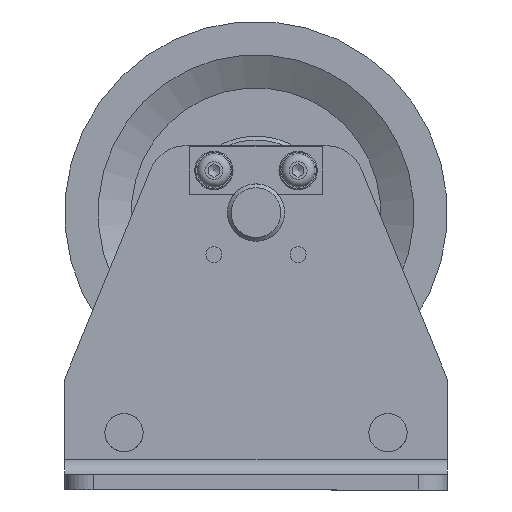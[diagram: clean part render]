
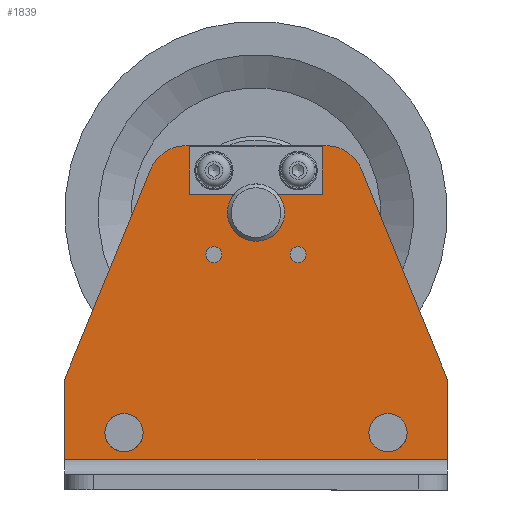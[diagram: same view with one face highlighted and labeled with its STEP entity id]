
A CAD part, front view. The second image highlights one B-rep face of the part: STEP entity #1839.
In plain terms, the highlighted planar face has unit normal (0, -1, 0) as drawn and (0, 0, 1) by its records, which use the part's own axes.
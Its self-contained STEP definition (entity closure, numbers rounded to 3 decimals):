
#159=FACE_BOUND('',#378,.T.);
#160=FACE_BOUND('',#379,.T.);
#161=FACE_BOUND('',#380,.T.);
#162=FACE_BOUND('',#381,.T.);
#163=FACE_BOUND('',#382,.T.);
#164=FACE_BOUND('',#383,.T.);
#165=FACE_BOUND('',#384,.T.);
#195=PLANE('',#2180);
#263=FACE_OUTER_BOUND('',#377,.T.);
#377=EDGE_LOOP('',(#1408,#1409,#1410,#1411,#1412,#1413,#1414,#1415));
#378=EDGE_LOOP('',(#1416,#1417));
#379=EDGE_LOOP('',(#1418,#1419));
#380=EDGE_LOOP('',(#1420,#1421));
#381=EDGE_LOOP('',(#1422,#1423));
#382=EDGE_LOOP('',(#1424));
#383=EDGE_LOOP('',(#1425));
#384=EDGE_LOOP('',(#1426));
#498=LINE('',#3132,#613);
#501=LINE('',#3138,#616);
#509=LINE('',#3172,#624);
#513=LINE('',#3181,#628);
#516=LINE('',#3188,#631);
#517=LINE('',#3190,#632);
#613=VECTOR('',#2495,10.);
#616=VECTOR('',#2500,10.);
#624=VECTOR('',#2534,10.);
#628=VECTOR('',#2544,10.);
#631=VECTOR('',#2553,10.);
#632=VECTOR('',#2556,10.);
#705=CIRCLE('',#2117,4.188);
#706=CIRCLE('',#2118,4.188);
#708=CIRCLE('',#2121,4.188);
#709=CIRCLE('',#2122,4.188);
#711=CIRCLE('',#2125,4.188);
#712=CIRCLE('',#2126,4.188);
#714=CIRCLE('',#2129,4.188);
#715=CIRCLE('',#2130,4.188);
#736=CIRCLE('',#2167,10.);
#737=CIRCLE('',#2169,10.);
#738=CIRCLE('',#2171,15.);
#739=CIRCLE('',#2174,20.);
#740=CIRCLE('',#2177,20.);
#838=VERTEX_POINT('',#3033);
#839=VERTEX_POINT('',#3034);
#841=VERTEX_POINT('',#3041);
#842=VERTEX_POINT('',#3042);
#844=VERTEX_POINT('',#3049);
#845=VERTEX_POINT('',#3050);
#847=VERTEX_POINT('',#3057);
#848=VERTEX_POINT('',#3058);
#870=VERTEX_POINT('',#3123);
#871=VERTEX_POINT('',#3127);
#873=VERTEX_POINT('',#3136);
#882=VERTEX_POINT('',#3158);
#883=VERTEX_POINT('',#3162);
#884=VERTEX_POINT('',#3166);
#885=VERTEX_POINT('',#3170);
#886=VERTEX_POINT('',#3171);
#887=VERTEX_POINT('',#3176);
#888=VERTEX_POINT('',#3180);
#889=VERTEX_POINT('',#3184);
#1014=EDGE_CURVE('',#838,#839,#705,.T.);
#1015=EDGE_CURVE('',#839,#838,#706,.T.);
#1018=EDGE_CURVE('',#841,#842,#708,.T.);
#1019=EDGE_CURVE('',#842,#841,#709,.T.);
#1022=EDGE_CURVE('',#844,#845,#711,.T.);
#1023=EDGE_CURVE('',#845,#844,#712,.T.);
#1026=EDGE_CURVE('',#847,#848,#714,.T.);
#1027=EDGE_CURVE('',#848,#847,#715,.T.);
#1063=EDGE_CURVE('',#870,#871,#498,.T.);
#1066=EDGE_CURVE('',#873,#871,#501,.T.);
#1077=EDGE_CURVE('',#882,#882,#736,.T.);
#1079=EDGE_CURVE('',#883,#883,#737,.T.);
#1081=EDGE_CURVE('',#884,#884,#738,.T.);
#1082=EDGE_CURVE('',#885,#886,#509,.T.);
#1085=EDGE_CURVE('',#886,#887,#739,.T.);
#1087=EDGE_CURVE('',#887,#888,#513,.T.);
#1089=EDGE_CURVE('',#888,#889,#740,.T.);
#1091=EDGE_CURVE('',#889,#873,#516,.T.);
#1092=EDGE_CURVE('',#870,#885,#517,.T.);
#1408=ORIENTED_EDGE('',*,*,#1063,.T.);
#1409=ORIENTED_EDGE('',*,*,#1066,.F.);
#1410=ORIENTED_EDGE('',*,*,#1091,.F.);
#1411=ORIENTED_EDGE('',*,*,#1089,.F.);
#1412=ORIENTED_EDGE('',*,*,#1087,.F.);
#1413=ORIENTED_EDGE('',*,*,#1085,.F.);
#1414=ORIENTED_EDGE('',*,*,#1082,.F.);
#1415=ORIENTED_EDGE('',*,*,#1092,.F.);
#1416=ORIENTED_EDGE('',*,*,#1014,.T.);
#1417=ORIENTED_EDGE('',*,*,#1015,.T.);
#1418=ORIENTED_EDGE('',*,*,#1018,.T.);
#1419=ORIENTED_EDGE('',*,*,#1019,.T.);
#1420=ORIENTED_EDGE('',*,*,#1022,.T.);
#1421=ORIENTED_EDGE('',*,*,#1023,.T.);
#1422=ORIENTED_EDGE('',*,*,#1026,.T.);
#1423=ORIENTED_EDGE('',*,*,#1027,.T.);
#1424=ORIENTED_EDGE('',*,*,#1077,.T.);
#1425=ORIENTED_EDGE('',*,*,#1079,.T.);
#1426=ORIENTED_EDGE('',*,*,#1081,.T.);
#1839=ADVANCED_FACE('',(#263,#159,#160,#161,#162,#163,#164,#165),#195,.T.);
#2117=AXIS2_PLACEMENT_3D('',#3035,#2388,#2389);
#2118=AXIS2_PLACEMENT_3D('',#3036,#2390,#2391);
#2121=AXIS2_PLACEMENT_3D('',#3043,#2397,#2398);
#2122=AXIS2_PLACEMENT_3D('',#3044,#2399,#2400);
#2125=AXIS2_PLACEMENT_3D('',#3051,#2406,#2407);
#2126=AXIS2_PLACEMENT_3D('',#3052,#2408,#2409);
#2129=AXIS2_PLACEMENT_3D('',#3059,#2415,#2416);
#2130=AXIS2_PLACEMENT_3D('',#3060,#2417,#2418);
#2167=AXIS2_PLACEMENT_3D('',#3160,#2520,#2521);
#2169=AXIS2_PLACEMENT_3D('',#3164,#2525,#2526);
#2171=AXIS2_PLACEMENT_3D('',#3168,#2530,#2531);
#2174=AXIS2_PLACEMENT_3D('',#3177,#2539,#2540);
#2177=AXIS2_PLACEMENT_3D('',#3185,#2548,#2549);
#2180=AXIS2_PLACEMENT_3D('',#3191,#2557,#2558);
#2388=DIRECTION('center_axis',(0.,0.,-1.));
#2389=DIRECTION('ref_axis',(1.,0.,0.));
#2390=DIRECTION('center_axis',(0.,0.,-1.));
#2391=DIRECTION('ref_axis',(1.,0.,0.));
#2397=DIRECTION('center_axis',(0.,0.,-1.));
#2398=DIRECTION('ref_axis',(1.,0.,0.));
#2399=DIRECTION('center_axis',(0.,0.,-1.));
#2400=DIRECTION('ref_axis',(1.,0.,0.));
#2406=DIRECTION('center_axis',(0.,0.,-1.));
#2407=DIRECTION('ref_axis',(1.,0.,0.));
#2408=DIRECTION('center_axis',(0.,0.,-1.));
#2409=DIRECTION('ref_axis',(1.,0.,0.));
#2415=DIRECTION('center_axis',(0.,0.,-1.));
#2416=DIRECTION('ref_axis',(1.,0.,0.));
#2417=DIRECTION('center_axis',(0.,0.,-1.));
#2418=DIRECTION('ref_axis',(1.,0.,0.));
#2495=DIRECTION('',(1.,0.,0.));
#2500=DIRECTION('',(0.,-1.,0.));
#2520=DIRECTION('center_axis',(0.,0.,-1.));
#2521=DIRECTION('ref_axis',(-1.,0.,0.));
#2525=DIRECTION('center_axis',(0.,0.,-1.));
#2526=DIRECTION('ref_axis',(-1.,0.,0.));
#2530=DIRECTION('center_axis',(0.,0.,-1.));
#2531=DIRECTION('ref_axis',(-1.,0.,0.));
#2534=DIRECTION('',(0.379,0.925,0.));
#2539=DIRECTION('center_axis',(0.,0.,-1.));
#2540=DIRECTION('ref_axis',(0.,1.,0.));
#2544=DIRECTION('',(1.,0.,0.));
#2548=DIRECTION('center_axis',(0.,0.,-1.));
#2549=DIRECTION('ref_axis',(0.925,0.379,0.));
#2553=DIRECTION('',(0.379,-0.925,0.));
#2556=DIRECTION('',(0.,1.,0.));
#2557=DIRECTION('center_axis',(0.,0.,1.));
#2558=DIRECTION('ref_axis',(1.,0.,0.));
#3033=CARTESIAN_POINT('',(-17.812,123.,8.));
#3034=CARTESIAN_POINT('',(-26.188,123.,8.));
#3035=CARTESIAN_POINT('Origin',(-22.,123.,8.));
#3036=CARTESIAN_POINT('Origin',(-22.,123.,8.));
#3041=CARTESIAN_POINT('',(26.188,123.,8.));
#3042=CARTESIAN_POINT('',(17.812,123.,8.));
#3043=CARTESIAN_POINT('Origin',(22.,123.,8.));
#3044=CARTESIAN_POINT('Origin',(22.,123.,8.));
#3049=CARTESIAN_POINT('',(-17.812,167.,8.));
#3050=CARTESIAN_POINT('',(-26.188,167.,8.));
#3051=CARTESIAN_POINT('Origin',(-22.,167.,8.));
#3052=CARTESIAN_POINT('Origin',(-22.,167.,8.));
#3057=CARTESIAN_POINT('',(26.188,167.,8.));
#3058=CARTESIAN_POINT('',(17.812,167.,8.));
#3059=CARTESIAN_POINT('Origin',(22.,167.,8.));
#3060=CARTESIAN_POINT('Origin',(22.,167.,8.));
#3123=CARTESIAN_POINT('',(-100.,16.,8.));
#3127=CARTESIAN_POINT('',(100.,16.,8.));
#3132=CARTESIAN_POINT('',(50.,16.,8.));
#3136=CARTESIAN_POINT('',(100.,58.,8.));
#3138=CARTESIAN_POINT('',(100.,0.,8.));
#3158=CARTESIAN_POINT('',(79.,30.,8.));
#3160=CARTESIAN_POINT('Origin',(69.,30.,8.));
#3162=CARTESIAN_POINT('',(-59.,30.,8.));
#3164=CARTESIAN_POINT('Origin',(-69.,30.,8.));
#3166=CARTESIAN_POINT('',(15.,145.,8.));
#3168=CARTESIAN_POINT('Origin',(0.,145.,8.));
#3170=CARTESIAN_POINT('',(-100.,58.,8.));
#3171=CARTESIAN_POINT('',(-55.088,167.584,8.));
#3172=CARTESIAN_POINT('',(-55.088,167.584,8.));
#3176=CARTESIAN_POINT('',(-36.582,180.,8.));
#3177=CARTESIAN_POINT('Origin',(-36.582,160.,8.));
#3180=CARTESIAN_POINT('',(36.582,180.,8.));
#3181=CARTESIAN_POINT('',(36.582,180.,8.));
#3184=CARTESIAN_POINT('',(55.088,167.584,8.));
#3185=CARTESIAN_POINT('Origin',(36.582,160.,8.));
#3188=CARTESIAN_POINT('',(100.,58.,8.));
#3190=CARTESIAN_POINT('',(-100.,58.,8.));
#3191=CARTESIAN_POINT('Origin',(0.,76.556,8.));
